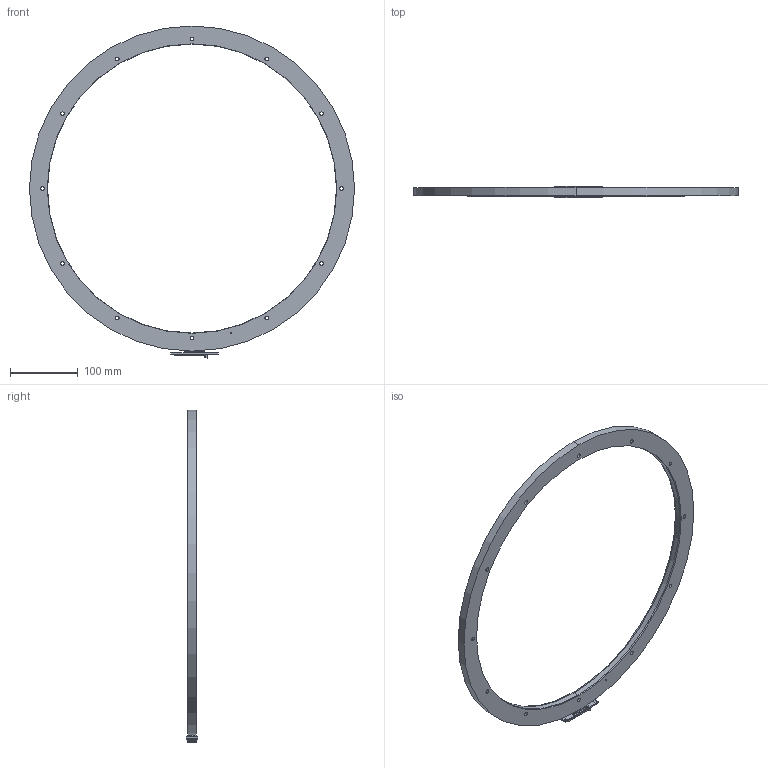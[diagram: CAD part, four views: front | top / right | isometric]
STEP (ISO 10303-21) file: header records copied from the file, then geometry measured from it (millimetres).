
FILE_DESCRIPTION (( 'STEP AP214' ), '1' );
FILE_NAME ('DBRxVx_SAR478.STEP', '2024-02-01T10:19:50', ( '' ), ( '' ), 'SwSTEP 2.0', 'SolidWorks 2022', '' );
FILE_SCHEMA (( 'AUTOMOTIVE_DESIGN' ));
Length unit declared in the file: millimetre
Products named in the file (1): DBRxVx_SAR478
Bounding box: 478.18 x 17 x 488.32 mm (x, y, z)
Volume: 449290.3 mm3; surface area: 115360.2 mm2
Topology: 2 solids, 2 shells, 2372 faces, 6585 edges, 4389 vertices
Faces by surface type: plane 2087, bspline 142, cylinder 123, cone 16, sphere 4
Entity records: 109253 total; most frequent: CARTESIAN_POINT 26978, ORIENTED_EDGE 13160, DIRECTION 8938, EDGE_CURVE 6580, VERTEX_POINT 4389, LINE 4196, VECTOR 4196, EDGE_LOOP 2587
